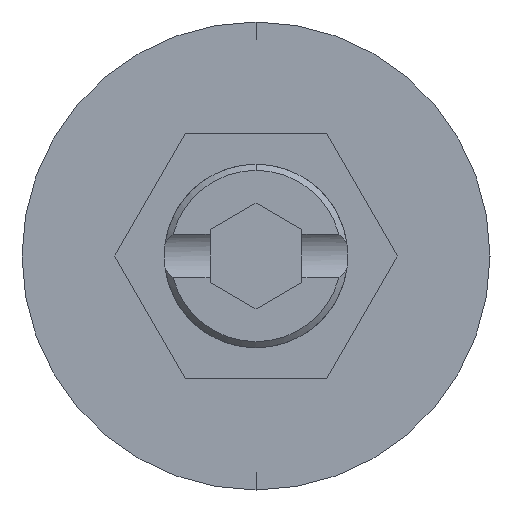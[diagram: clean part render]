
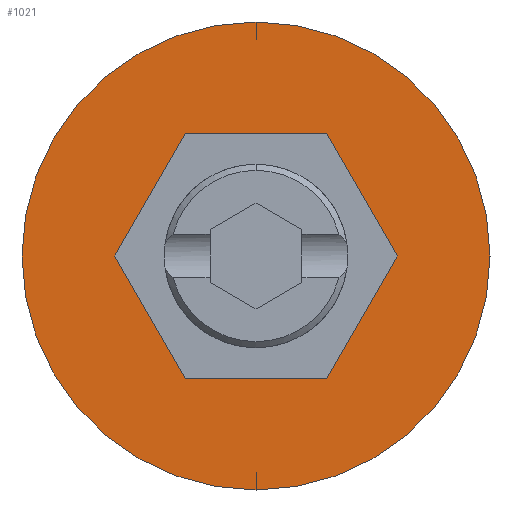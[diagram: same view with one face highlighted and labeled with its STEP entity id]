
A CAD part, front view. The second image highlights one B-rep face of the part: STEP entity #1021.
In plain terms, the highlighted planar face has unit normal (0, -1, 0).
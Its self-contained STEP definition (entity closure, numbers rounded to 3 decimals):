
#19 = ORIENTED_EDGE ( 'NONE', *, *, #513, .F. ) ;
#31 = AXIS2_PLACEMENT_3D ( 'NONE', #1168, #1155, #974 ) ;
#116 = DIRECTION ( 'NONE',  ( -1., 0., 0. ) ) ;
#148 = FACE_BOUND ( 'NONE', #2082, .T. ) ;
#168 = CARTESIAN_POINT ( 'NONE',  ( -2.309, 0., -4. ) ) ;
#199 = DIRECTION ( 'NONE',  ( 1., 0., 0. ) ) ;
#203 = ORIENTED_EDGE ( 'NONE', *, *, #1890, .F. ) ;
#244 = EDGE_LOOP ( 'NONE', ( #1533, #1683 ) ) ;
#307 = CARTESIAN_POINT ( 'NONE',  ( 2.309, 0., 4. ) ) ;
#342 = LINE ( 'NONE', #600, #2081 ) ;
#417 = VECTOR ( 'NONE', #1322, 1000. ) ;
#420 = DIRECTION ( 'NONE',  ( 0., 0., -1. ) ) ;
#513 = EDGE_CURVE ( 'NONE', #908, #893, #2025, .T. ) ;
#556 = EDGE_CURVE ( 'NONE', #984, #908, #636, .T. ) ;
#564 = VERTEX_POINT ( 'NONE', #1419 ) ;
#600 = CARTESIAN_POINT ( 'NONE',  ( 2.309, 0., 4. ) ) ;
#608 = DIRECTION ( 'NONE',  ( 0., -1., 0. ) ) ;
#636 = LINE ( 'NONE', #1411, #417 ) ;
#662 = VECTOR ( 'NONE', #199, 1000. ) ;
#738 = FACE_OUTER_BOUND ( 'NONE', #244, .T. ) ;
#804 = ORIENTED_EDGE ( 'NONE', *, *, #2140, .F. ) ;
#855 = CARTESIAN_POINT ( 'NONE',  ( -2.309, 0., -4. ) ) ;
#893 = VERTEX_POINT ( 'NONE', #307 ) ;
#908 = VERTEX_POINT ( 'NONE', #2154 ) ;
#928 = VECTOR ( 'NONE', #1256, 1000. ) ;
#974 = DIRECTION ( 'NONE',  ( 0., 0., -1. ) ) ;
#977 = CARTESIAN_POINT ( 'NONE',  ( -2.309, 0., 4. ) ) ;
#984 = VERTEX_POINT ( 'NONE', #2075 ) ;
#992 = VECTOR ( 'NONE', #2150, 1000. ) ;
#1021 = ADVANCED_FACE ( 'NONE', ( #148, #738 ), #1892, .T. ) ;
#1126 = CARTESIAN_POINT ( 'NONE',  ( 4.619, 0., 0. ) ) ;
#1155 = DIRECTION ( 'NONE',  ( 0., -1., 0. ) ) ;
#1168 = CARTESIAN_POINT ( 'NONE',  ( 0., 0., 0. ) ) ;
#1202 = AXIS2_PLACEMENT_3D ( 'NONE', #1216, #608, #1360 ) ;
#1216 = CARTESIAN_POINT ( 'NONE',  ( 0., 0., 0. ) ) ;
#1256 = DIRECTION ( 'NONE',  ( -0.5, 0., 0.866 ) ) ;
#1322 = DIRECTION ( 'NONE',  ( 0.5, 0., 0.866 ) ) ;
#1329 = CIRCLE ( 'NONE', #1202, 7.65 ) ;
#1337 = EDGE_CURVE ( 'NONE', #1423, #1378, #1685, .T. ) ;
#1356 = VERTEX_POINT ( 'NONE', #1598 ) ;
#1360 = DIRECTION ( 'NONE',  ( 0., 0., -1. ) ) ;
#1377 = EDGE_CURVE ( 'NONE', #564, #1356, #1633, .T. ) ;
#1378 = VERTEX_POINT ( 'NONE', #1975 ) ;
#1404 = AXIS2_PLACEMENT_3D ( 'NONE', #1954, #1939, #420 ) ;
#1411 = CARTESIAN_POINT ( 'NONE',  ( 2.309, 0., -4. ) ) ;
#1419 = CARTESIAN_POINT ( 'NONE',  ( 0., 0., -7.65 ) ) ;
#1423 = VERTEX_POINT ( 'NONE', #977 ) ;
#1443 = LINE ( 'NONE', #2104, #992 ) ;
#1446 = EDGE_CURVE ( 'NONE', #1356, #564, #1329, .T. ) ;
#1457 = VERTEX_POINT ( 'NONE', #855 ) ;
#1507 = EDGE_CURVE ( 'NONE', #893, #1423, #342, .T. ) ;
#1533 = ORIENTED_EDGE ( 'NONE', *, *, #1377, .T. ) ;
#1556 = ORIENTED_EDGE ( 'NONE', *, *, #1337, .F. ) ;
#1598 = CARTESIAN_POINT ( 'NONE',  ( 0., 0., 7.65 ) ) ;
#1633 = CIRCLE ( 'NONE', #31, 7.65 ) ;
#1683 = ORIENTED_EDGE ( 'NONE', *, *, #1446, .T. ) ;
#1685 = LINE ( 'NONE', #1937, #1773 ) ;
#1773 = VECTOR ( 'NONE', #2105, 1000. ) ;
#1820 = ORIENTED_EDGE ( 'NONE', *, *, #1507, .F. ) ;
#1890 = EDGE_CURVE ( 'NONE', #1378, #1457, #1443, .T. ) ;
#1892 = PLANE ( 'NONE',  #1404 ) ;
#1937 = CARTESIAN_POINT ( 'NONE',  ( -2.309, 0., 4. ) ) ;
#1939 = DIRECTION ( 'NONE',  ( 0., -1., 0. ) ) ;
#1954 = CARTESIAN_POINT ( 'NONE',  ( 0., 0., 0. ) ) ;
#1975 = CARTESIAN_POINT ( 'NONE',  ( -4.619, 0., 0. ) ) ;
#1999 = LINE ( 'NONE', #168, #662 ) ;
#2025 = LINE ( 'NONE', #1126, #928 ) ;
#2075 = CARTESIAN_POINT ( 'NONE',  ( 2.309, 0., -4. ) ) ;
#2081 = VECTOR ( 'NONE', #116, 1000. ) ;
#2082 = EDGE_LOOP ( 'NONE', ( #804, #203, #1556, #1820, #19, #2161 ) ) ;
#2104 = CARTESIAN_POINT ( 'NONE',  ( -4.619, 0., 0. ) ) ;
#2105 = DIRECTION ( 'NONE',  ( -0.5, 0., -0.866 ) ) ;
#2140 = EDGE_CURVE ( 'NONE', #1457, #984, #1999, .T. ) ;
#2150 = DIRECTION ( 'NONE',  ( 0.5, 0., -0.866 ) ) ;
#2154 = CARTESIAN_POINT ( 'NONE',  ( 4.619, 0., 0. ) ) ;
#2161 = ORIENTED_EDGE ( 'NONE', *, *, #556, .F. ) ;
